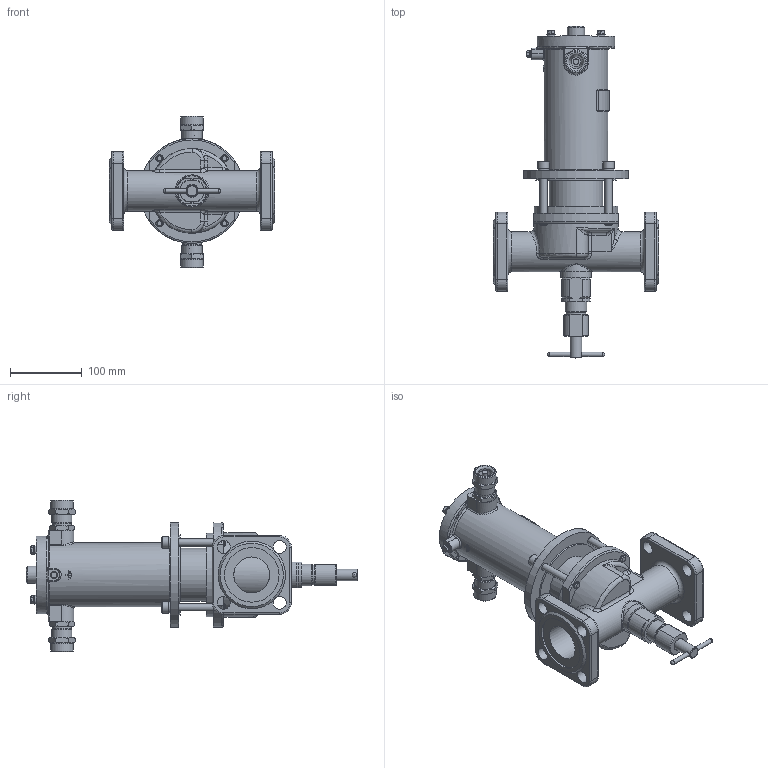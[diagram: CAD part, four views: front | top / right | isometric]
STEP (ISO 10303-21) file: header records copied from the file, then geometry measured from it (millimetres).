
FILE_DESCRIPTION(('STEP AP203'), '1');
FILE_NAME('ÑÅÍÑ DN50PN25-Â-ÑÂ.stp', '2018-09-19T08:42:19', ('Îðëîâ Å.Â.'), ('ÎÎÎ ÍÏÏ Ñåíñîð'), 'ASCON STEP Converter 1.3', 'Kompas 3D', '');
FILE_SCHEMA(('CONFIG_CONTROL_DESIGN','SUPPORT_RESOURCE_SCHEMA'));
Length unit declared in the file: millimetre
Products named in the file (1): 37
Bounding box: 230 x 462.5 x 211 mm (x, y, z)
Volume: 1574499.5 mm3; surface area: 437841.5 mm2
Topology: 2 solids, 19 shells, 1987 faces, 5264 edges, 3398 vertices
Faces by surface type: cylinder 1013, plane 729, cone 128, torus 50, bspline 47, extrusion 16, sphere 4
Full cylindrical faces by diameter (mm): 3.5 x2, 4.134 x1, 4.917 x4, 5 x1, 6 x10, 6.5 x4, 8 x8, 8.2 x1, 10 x9, 11 x5, 12 x4, 13 x2, 16 x6, 17 x2, 18 x9, 20 x4, 20.9 x1, 22 x2, 22.376 x2, 23 x1, 23.5 x2, 24 x3, 24.5 x2, 26 x4, 26.376 x2, 27.8 x1, 28 x3, 28.5 x2, 30 x2, 31 x2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
Entity records: 77228 total; most frequent: CARTESIAN_POINT 26813, DIRECTION 10945, ORIENTED_EDGE 10470, EDGE_CURVE 5235, AXIS2_PLACEMENT_3D 4207, VERTEX_POINT 3398, VECTOR 2531, LINE 2515
